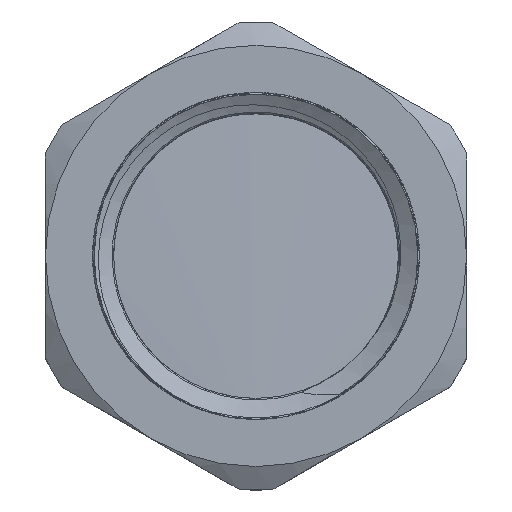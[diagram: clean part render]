
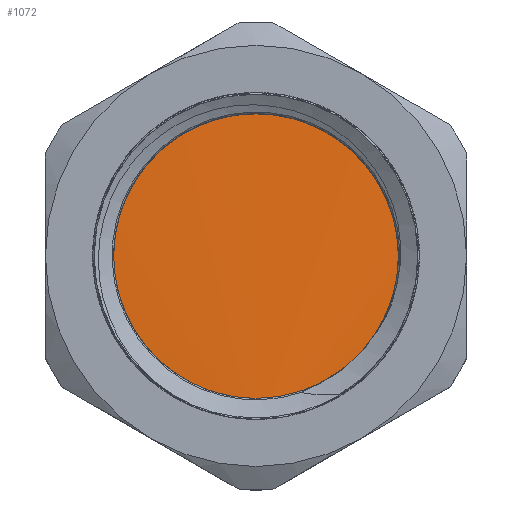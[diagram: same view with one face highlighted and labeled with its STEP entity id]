
A CAD part, top view. The second image highlights one B-rep face of the part: STEP entity #1072.
In plain terms, the highlighted cylindrical face has radius 12.055 mm (diameter 24.11 mm), a full revolution.
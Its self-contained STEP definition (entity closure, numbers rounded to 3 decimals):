
#26=B_SPLINE_CURVE_WITH_KNOTS('',3,(#1666,#1667,#1668,#1669,#1670,#1671,
#1672,#1673,#1674,#1675,#1676,#1677,#1678,#1679,#1680,#1681,#1682,#1683,
#1684,#1685,#1686,#1687,#1688,#1689,#1690,#1691,#1692,#1693,#1694,#1695,
#1696,#1697,#1698,#1699,#1700,#1701,#1702,#1703,#1704,#1705,#1706,#1707,
#1708),.UNSPECIFIED.,.F.,.F.,(4,3,3,3,3,3,3,3,3,3,3,3,3,3,4),(-31.416,
-31.126,-30.638,-30.15,-29.661,
-29.173,-28.685,-28.197,-27.709,
-27.22,-26.732,-26.244,-25.756,
-25.268,-25.133),.UNSPECIFIED.);
#148=LINE('',#1663,#188);
#149=LINE('',#1665,#189);
#188=VECTOR('',#1364,12.055);
#189=VECTOR('',#1365,12.055);
#215=CYLINDRICAL_SURFACE('',#1187,12.055);
#261=FACE_OUTER_BOUND('',#329,.T.);
#329=EDGE_LOOP('',(#831,#832,#833));
#469=VERTEX_POINT('',#1616);
#470=VERTEX_POINT('',#1662);
#471=VERTEX_POINT('',#1664);
#602=EDGE_CURVE('',#470,#469,#148,.T.);
#603=EDGE_CURVE('',#470,#471,#149,.T.);
#604=EDGE_CURVE('',#471,#469,#26,.T.);
#831=ORIENTED_EDGE('',*,*,#602,.F.);
#832=ORIENTED_EDGE('',*,*,#603,.T.);
#833=ORIENTED_EDGE('',*,*,#604,.T.);
#1072=ADVANCED_FACE('',(#261),#215,.T.);
#1187=AXIS2_PLACEMENT_3D('',#1661,#1362,#1363);
#1362=DIRECTION('center_axis',(0.,0.,-1.));
#1363=DIRECTION('ref_axis',(0.,1.,0.));
#1364=DIRECTION('',(0.,0.,-1.));
#1365=DIRECTION('',(0.,0.,1.));
#1616=CARTESIAN_POINT('',(0.,-12.055,5.458));
#1661=CARTESIAN_POINT('Origin',(0.,0.,5.5));
#1662=CARTESIAN_POINT('',(0.,-12.055,7.257));
#1663=CARTESIAN_POINT('',(0.,-12.055,5.5));
#1664=CARTESIAN_POINT('',(0.,-12.055,7.274));
#1665=CARTESIAN_POINT('',(0.,-12.055,5.5));
#1666=CARTESIAN_POINT('Ctrl Pts',(0.,-12.054,
7.274));
#1667=CARTESIAN_POINT('Ctrl Pts',(-1.165,-12.054,7.246));
#1668=CARTESIAN_POINT('Ctrl Pts',(-2.33,-11.886,7.218));
#1669=CARTESIAN_POINT('Ctrl Pts',(-3.445,-11.553,7.19));
#1670=CARTESIAN_POINT('Ctrl Pts',(-5.325,-10.993,7.143));
#1671=CARTESIAN_POINT('Ctrl Pts',(-7.065,-9.964,7.096));
#1672=CARTESIAN_POINT('Ctrl Pts',(-8.462,-8.587,7.049));
#1673=CARTESIAN_POINT('Ctrl Pts',(-9.859,-7.211,7.002));
#1674=CARTESIAN_POINT('Ctrl Pts',(-10.913,-5.486,6.955));
#1675=CARTESIAN_POINT('Ctrl Pts',(-11.501,-3.615,6.908));
#1676=CARTESIAN_POINT('Ctrl Pts',(-12.089,-1.744,6.861));
#1677=CARTESIAN_POINT('Ctrl Pts',(-12.211,0.273,6.814));
#1678=CARTESIAN_POINT('Ctrl Pts',(-11.853,2.202,6.767));
#1679=CARTESIAN_POINT('Ctrl Pts',(-11.495,4.13,6.72));
#1680=CARTESIAN_POINT('Ctrl Pts',(-10.656,5.969,6.673));
#1681=CARTESIAN_POINT('Ctrl Pts',(-9.436,7.504,6.625));
#1682=CARTESIAN_POINT('Ctrl Pts',(-8.215,9.039,6.578));
#1683=CARTESIAN_POINT('Ctrl Pts',(-6.612,10.27,6.531));
#1684=CARTESIAN_POINT('Ctrl Pts',(-4.813,11.053,6.484));
#1685=CARTESIAN_POINT('Ctrl Pts',(-3.015,11.836,6.437));
#1686=CARTESIAN_POINT('Ctrl Pts',(-1.022,12.172,6.39));
#1687=CARTESIAN_POINT('Ctrl Pts',(0.933,12.02,6.343));
#1688=CARTESIAN_POINT('Ctrl Pts',(2.889,11.868,6.296));
#1689=CARTESIAN_POINT('Ctrl Pts',(4.807,11.229,6.249));
#1690=CARTESIAN_POINT('Ctrl Pts',(6.462,10.178,6.202));
#1691=CARTESIAN_POINT('Ctrl Pts',(8.118,9.126,6.155));
#1692=CARTESIAN_POINT('Ctrl Pts',(9.512,7.663,6.108));
#1693=CARTESIAN_POINT('Ctrl Pts',(10.481,5.958,6.061));
#1694=CARTESIAN_POINT('Ctrl Pts',(11.45,4.252,6.014));
#1695=CARTESIAN_POINT('Ctrl Pts',(11.995,2.306,5.967));
#1696=CARTESIAN_POINT('Ctrl Pts',(12.051,0.345,5.92));
#1697=CARTESIAN_POINT('Ctrl Pts',(12.107,-1.615,5.873));
#1698=CARTESIAN_POINT('Ctrl Pts',(11.675,-3.59,5.826));
#1699=CARTESIAN_POINT('Ctrl Pts',(10.805,-5.348,5.779));
#1700=CARTESIAN_POINT('Ctrl Pts',(9.935,-7.105,5.732));
#1701=CARTESIAN_POINT('Ctrl Pts',(8.627,-8.646,5.685));
#1702=CARTESIAN_POINT('Ctrl Pts',(7.035,-9.791,5.638));
#1703=CARTESIAN_POINT('Ctrl Pts',(5.442,-10.935,5.591));
#1704=CARTESIAN_POINT('Ctrl Pts',(3.564,-11.683,5.544));
#1705=CARTESIAN_POINT('Ctrl Pts',(1.62,-11.947,5.497));
#1706=CARTESIAN_POINT('Ctrl Pts',(1.084,-12.019,5.484));
#1707=CARTESIAN_POINT('Ctrl Pts',(0.542,-12.055,5.471));
#1708=CARTESIAN_POINT('Ctrl Pts',(0.,-12.055,
5.458));
